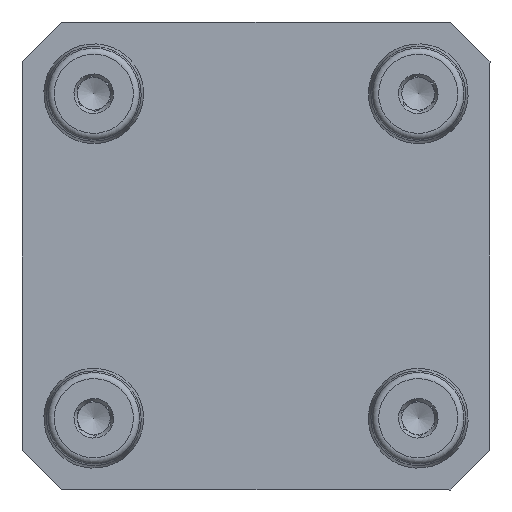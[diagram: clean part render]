
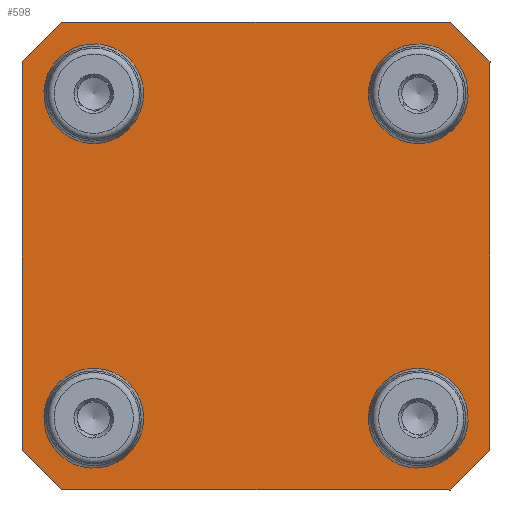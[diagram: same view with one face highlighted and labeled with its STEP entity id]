
A CAD part, front view. The second image highlights one B-rep face of the part: STEP entity #598.
In plain terms, the highlighted planar face has unit normal (0, -1, 0).
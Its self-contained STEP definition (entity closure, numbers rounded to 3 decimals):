
#1 = ORIENTED_EDGE ( 'NONE', *, *, #3734, .F. ) ;
#58 = DIRECTION ( 'NONE',  ( 0.707, 0., 0.707 ) ) ;
#73 = DIRECTION ( 'NONE',  ( 0., 0., -1. ) ) ;
#124 = LINE ( 'NONE', #5161, #794 ) ;
#159 = CARTESIAN_POINT ( 'NONE',  ( 37.5, 0., 31.15 ) ) ;
#263 = ORIENTED_EDGE ( 'NONE', *, *, #1542, .F. ) ;
#380 = ORIENTED_EDGE ( 'NONE', *, *, #5482, .T. ) ;
#410 = EDGE_CURVE ( 'NONE', #1369, #1369, #4929, .T. ) ;
#450 = LINE ( 'NONE', #4359, #599 ) ;
#480 = CARTESIAN_POINT ( 'NONE',  ( -31.15, 0., -37.5 ) ) ;
#486 = CARTESIAN_POINT ( 'NONE',  ( -34.325, 0., -34.325 ) ) ;
#521 = EDGE_CURVE ( 'NONE', #2379, #5966, #2625, .T. ) ;
#554 = EDGE_LOOP ( 'NONE', ( #5120 ) ) ;
#561 = CARTESIAN_POINT ( 'NONE',  ( 0., 0., 0. ) ) ;
#584 = CARTESIAN_POINT ( 'NONE',  ( 26., 0., -26. ) ) ;
#598 = ADVANCED_FACE ( 'NONE', ( #1661, #629, #2169, #4144, #1209 ), #4996, .T. ) ;
#599 = VECTOR ( 'NONE', #58, 1000. ) ;
#617 = ORIENTED_EDGE ( 'NONE', *, *, #1262, .T. ) ;
#629 = FACE_BOUND ( 'NONE', #554, .T. ) ;
#638 = DIRECTION ( 'NONE',  ( -1., 0., 0. ) ) ;
#670 = EDGE_LOOP ( 'NONE', ( #1454 ) ) ;
#794 = VECTOR ( 'NONE', #2602, 1000. ) ;
#905 = AXIS2_PLACEMENT_3D ( 'NONE', #5134, #5605, #4554 ) ;
#1062 = EDGE_CURVE ( 'NONE', #4530, #4530, #5372, .T. ) ;
#1132 = ORIENTED_EDGE ( 'NONE', *, *, #1062, .F. ) ;
#1148 = DIRECTION ( 'NONE',  ( 1., 0., 0. ) ) ;
#1209 = FACE_OUTER_BOUND ( 'NONE', #4165, .T. ) ;
#1262 = EDGE_CURVE ( 'NONE', #1869, #3647, #2944, .T. ) ;
#1282 = VERTEX_POINT ( 'NONE', #4448 ) ;
#1369 = VERTEX_POINT ( 'NONE', #2858 ) ;
#1374 = LINE ( 'NONE', #6357, #3968 ) ;
#1454 = ORIENTED_EDGE ( 'NONE', *, *, #410, .F. ) ;
#1542 = EDGE_CURVE ( 'NONE', #2229, #1282, #124, .T. ) ;
#1657 = CARTESIAN_POINT ( 'NONE',  ( -37.5, 0., -31.15 ) ) ;
#1661 = FACE_BOUND ( 'NONE', #3909, .T. ) ;
#1690 = ORIENTED_EDGE ( 'NONE', *, *, #2426, .T. ) ;
#1743 = DIRECTION ( 'NONE',  ( 0., 0., 1. ) ) ;
#1772 = CARTESIAN_POINT ( 'NONE',  ( -26., 0., -26. ) ) ;
#1835 = VECTOR ( 'NONE', #638, 1000. ) ;
#1869 = VERTEX_POINT ( 'NONE', #1657 ) ;
#1888 = DIRECTION ( 'NONE',  ( 0., -1., 0. ) ) ;
#2141 = VECTOR ( 'NONE', #1148, 1000. ) ;
#2147 = EDGE_CURVE ( 'NONE', #3042, #3042, #6390, .T. ) ;
#2169 = FACE_BOUND ( 'NONE', #6272, .T. ) ;
#2229 = VERTEX_POINT ( 'NONE', #159 ) ;
#2356 = CIRCLE ( 'NONE', #5366, 6.008 ) ;
#2379 = VERTEX_POINT ( 'NONE', #3197 ) ;
#2426 = EDGE_CURVE ( 'NONE', #4799, #1282, #450, .T. ) ;
#2459 = DIRECTION ( 'NONE',  ( 0.707, 0., -0.707 ) ) ;
#2515 = ORIENTED_EDGE ( 'NONE', *, *, #2795, .F. ) ;
#2534 = DIRECTION ( 'NONE',  ( 0., -1., 0. ) ) ;
#2576 = VECTOR ( 'NONE', #4313, 1000. ) ;
#2602 = DIRECTION ( 'NONE',  ( 0., 0., -1. ) ) ;
#2625 = LINE ( 'NONE', #5119, #2141 ) ;
#2795 = EDGE_CURVE ( 'NONE', #1869, #4320, #2863, .T. ) ;
#2858 = CARTESIAN_POINT ( 'NONE',  ( -26., 0., 19.992 ) ) ;
#2863 = LINE ( 'NONE', #5882, #3794 ) ;
#2909 = EDGE_CURVE ( 'NONE', #5108, #5108, #2356, .T. ) ;
#2944 = LINE ( 'NONE', #486, #5149 ) ;
#3042 = VERTEX_POINT ( 'NONE', #5937 ) ;
#3057 = CARTESIAN_POINT ( 'NONE',  ( -37.5, 0., 31.15 ) ) ;
#3197 = CARTESIAN_POINT ( 'NONE',  ( -31.15, 0., 37.5 ) ) ;
#3340 = DIRECTION ( 'NONE',  ( -0.707, 0., 0.707 ) ) ;
#3403 = CARTESIAN_POINT ( 'NONE',  ( -34.325, 0., 34.325 ) ) ;
#3647 = VERTEX_POINT ( 'NONE', #480 ) ;
#3667 = DIRECTION ( 'NONE',  ( 0., -1., 0. ) ) ;
#3734 = EDGE_CURVE ( 'NONE', #4799, #3647, #6140, .T. ) ;
#3783 = AXIS2_PLACEMENT_3D ( 'NONE', #4475, #1888, #3860 ) ;
#3794 = VECTOR ( 'NONE', #4823, 1000. ) ;
#3801 = AXIS2_PLACEMENT_3D ( 'NONE', #1772, #3667, #1743 ) ;
#3860 = DIRECTION ( 'NONE',  ( 0., 0., -1. ) ) ;
#3909 = EDGE_LOOP ( 'NONE', ( #1132 ) ) ;
#3968 = VECTOR ( 'NONE', #3340, 1000. ) ;
#4042 = CARTESIAN_POINT ( 'NONE',  ( -26., 0., -19.992 ) ) ;
#4144 = FACE_BOUND ( 'NONE', #670, .T. ) ;
#4150 = ORIENTED_EDGE ( 'NONE', *, *, #521, .F. ) ;
#4165 = EDGE_LOOP ( 'NONE', ( #263, #380, #4150, #5513, #2515, #617, #1, #1690 ) ) ;
#4313 = DIRECTION ( 'NONE',  ( -0.707, 0., -0.707 ) ) ;
#4320 = VERTEX_POINT ( 'NONE', #3057 ) ;
#4359 = CARTESIAN_POINT ( 'NONE',  ( 34.325, 0., -34.325 ) ) ;
#4448 = CARTESIAN_POINT ( 'NONE',  ( 37.5, 0., -31.15 ) ) ;
#4475 = CARTESIAN_POINT ( 'NONE',  ( -26., 0., 26. ) ) ;
#4530 = VERTEX_POINT ( 'NONE', #4042 ) ;
#4554 = DIRECTION ( 'NONE',  ( 0., 0., 1. ) ) ;
#4660 = ORIENTED_EDGE ( 'NONE', *, *, #2147, .F. ) ;
#4799 = VERTEX_POINT ( 'NONE', #5578 ) ;
#4823 = DIRECTION ( 'NONE',  ( 0., 0., 1. ) ) ;
#4929 = CIRCLE ( 'NONE', #3783, 6.008 ) ;
#4961 = DIRECTION ( 'NONE',  ( 0., -1., 0. ) ) ;
#4996 = PLANE ( 'NONE',  #5364 ) ;
#5108 = VERTEX_POINT ( 'NONE', #6063 ) ;
#5119 = CARTESIAN_POINT ( 'NONE',  ( -37.5, 0., 37.5 ) ) ;
#5120 = ORIENTED_EDGE ( 'NONE', *, *, #2909, .F. ) ;
#5134 = CARTESIAN_POINT ( 'NONE',  ( 26., 0., 26. ) ) ;
#5149 = VECTOR ( 'NONE', #2459, 1000. ) ;
#5161 = CARTESIAN_POINT ( 'NONE',  ( 37.5, 0., 37.5 ) ) ;
#5364 = AXIS2_PLACEMENT_3D ( 'NONE', #561, #2534, #6015 ) ;
#5366 = AXIS2_PLACEMENT_3D ( 'NONE', #584, #4961, #73 ) ;
#5372 = CIRCLE ( 'NONE', #3801, 6.008 ) ;
#5482 = EDGE_CURVE ( 'NONE', #2229, #5966, #1374, .T. ) ;
#5513 = ORIENTED_EDGE ( 'NONE', *, *, #6055, .T. ) ;
#5578 = CARTESIAN_POINT ( 'NONE',  ( 31.15, 0., -37.5 ) ) ;
#5605 = DIRECTION ( 'NONE',  ( 0., -1., 0. ) ) ;
#5882 = CARTESIAN_POINT ( 'NONE',  ( -37.5, 0., 37.5 ) ) ;
#5937 = CARTESIAN_POINT ( 'NONE',  ( 26., 0., 32.008 ) ) ;
#5966 = VERTEX_POINT ( 'NONE', #6295 ) ;
#6015 = DIRECTION ( 'NONE',  ( 0., 0., -1. ) ) ;
#6023 = CARTESIAN_POINT ( 'NONE',  ( -37.5, 0., -37.5 ) ) ;
#6055 = EDGE_CURVE ( 'NONE', #2379, #4320, #6359, .T. ) ;
#6063 = CARTESIAN_POINT ( 'NONE',  ( 26., 0., -32.008 ) ) ;
#6140 = LINE ( 'NONE', #6023, #1835 ) ;
#6272 = EDGE_LOOP ( 'NONE', ( #4660 ) ) ;
#6295 = CARTESIAN_POINT ( 'NONE',  ( 31.15, 0., 37.5 ) ) ;
#6357 = CARTESIAN_POINT ( 'NONE',  ( 34.325, 0., 34.325 ) ) ;
#6359 = LINE ( 'NONE', #3403, #2576 ) ;
#6390 = CIRCLE ( 'NONE', #905, 6.008 ) ;
